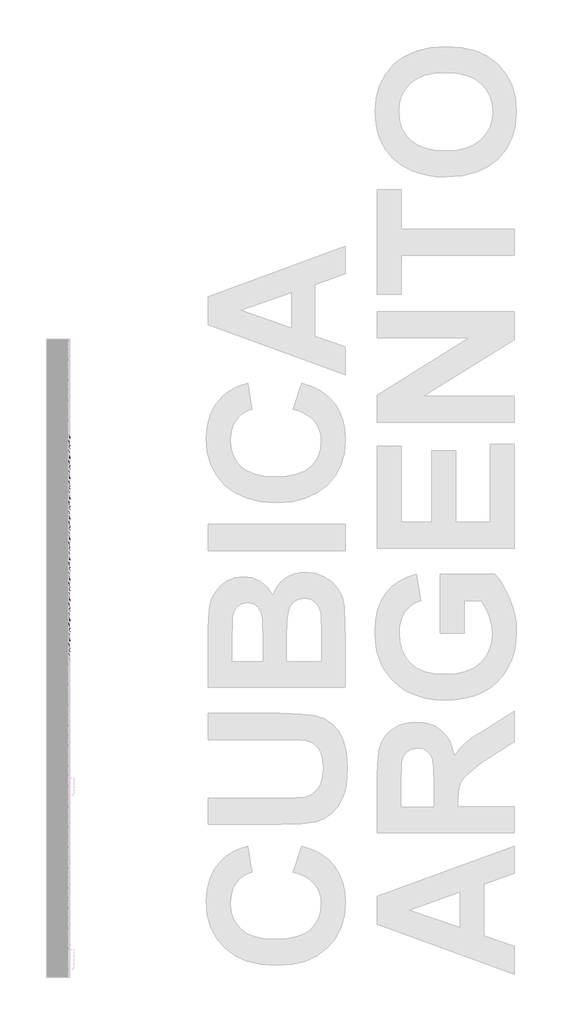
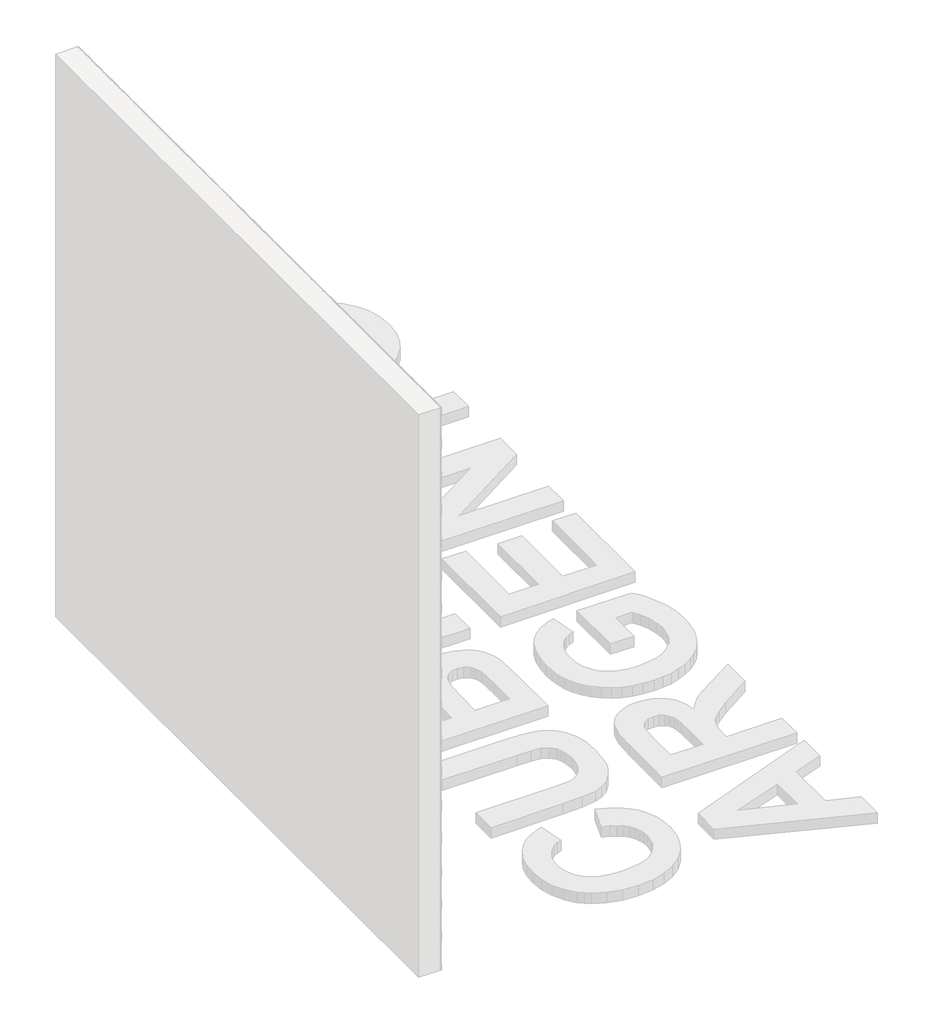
# One storey, part 16 of 121: 145 proxies.
"""IFC4 building model written with IfcOpenShell, lengths in millimetres."""

from ifc_helpers import new_model, si_unit, origin, place, context, project, spatial, transform, mapped, element, save
from components import generic_models_b2b2c5c1, generic_models_9bf73f6f, generic_models_5d175859

model = new_model("IFC4")

# Units and contexts
model_context = context("Model", 3, world=origin())
ifc_project = project(units=[si_unit("LENGTHUNIT", "METRE", prefix="MILLI")], contexts=[model_context])

# Site, building, storey
site = spatial("IfcSite", under=ifc_project)
building = spatial("IfcBuilding", under=site)
storey = spatial("IfcBuildingStorey", under=building, Name="PORTOBELLO - SHOWROOM", Elevation=0.0)

# Proxies
placement = place(None, origin())
generic_models_shape = generic_models_b2b2c5c1(model_context)
element("IfcBuildingElementProxy", 1, Name="PBSHOP - CUBICA ARGENTO 4,8X8,3 : CUBICA ARGENTO - POSIÇÃO 01", ObjectType="PBSHOP - CUBICA ARGENTO 4,8X8,3 : CUBICA ARGENTO - POSIÇÃO 01", at=placement, inside=storey, context=model_context, shape_type="MappedRepresentation", body=[
    mapped(generic_models_shape, transform((150369.5341846, -4541.2472349, 1065.5724657), x_axis=(0.0, 1.0, 0.0), y_axis=(0.0, 0.0, 1.0), z_axis=(1.0, 0.0, 0.0))),
])
element("IfcBuildingElementProxy", 2, Name="PBSHOP - CUBICA ARGENTO 4,8X8,3 : CUBICA ARGENTO - POSIÇÃO 01", ObjectType="PBSHOP - CUBICA ARGENTO 4,8X8,3 : CUBICA ARGENTO - POSIÇÃO 01", at=placement, inside=storey, context=model_context, shape_type="MappedRepresentation", body=[
    mapped(generic_models_shape, transform((150369.5341846, -4450.4079657, 1065.5724657), x_axis=(0.0, 1.0, 0.0), y_axis=(0.0, 0.0, 1.0), z_axis=(1.0, 0.0, 0.0))),
])
element("IfcBuildingElementProxy", 3, Name="PBSHOP - CUBICA ARGENTO 4,8X8,3 : CUBICA ARGENTO - POSIÇÃO 01", ObjectType="PBSHOP - CUBICA ARGENTO 4,8X8,3 : CUBICA ARGENTO - POSIÇÃO 01", at=placement, inside=storey, context=model_context, shape_type="MappedRepresentation", body=[
    mapped(generic_models_shape, transform((150369.5341846, -4359.5686964, 1065.5724657), x_axis=(0.0, 1.0, 0.0), y_axis=(0.0, 0.0, 1.0), z_axis=(1.0, 0.0, 0.0))),
])
element("IfcBuildingElementProxy", 4, Name="PBSHOP - CUBICA ARGENTO 4,8X8,3 : CUBICA ARGENTO - POSIÇÃO 01", ObjectType="PBSHOP - CUBICA ARGENTO 4,8X8,3 : CUBICA ARGENTO - POSIÇÃO 01", at=placement, inside=storey, context=model_context, shape_type="MappedRepresentation", body=[
    mapped(generic_models_shape, transform((150369.5341846, -4268.7294272, 1065.5724657), x_axis=(0.0, 1.0, 0.0), y_axis=(0.0, 0.0, 1.0), z_axis=(1.0, 0.0, 0.0))),
])
element("IfcBuildingElementProxy", 5, Name="PBSHOP - CUBICA ARGENTO 4,8X8,3 : CUBICA ARGENTO - POSIÇÃO 01", ObjectType="PBSHOP - CUBICA ARGENTO 4,8X8,3 : CUBICA ARGENTO - POSIÇÃO 01", at=placement, inside=storey, context=model_context, shape_type="MappedRepresentation", body=[
    mapped(generic_models_shape, transform((150369.5341846, -4177.890158, 1065.5724657), x_axis=(0.0, 1.0, 0.0), y_axis=(0.0, 0.0, 1.0), z_axis=(1.0, 0.0, 0.0))),
])
element("IfcBuildingElementProxy", 6, Name="PBSHOP - CUBICA ARGENTO 4,8X8,3 : CUBICA ARGENTO - POSIÇÃO 01", ObjectType="PBSHOP - CUBICA ARGENTO 4,8X8,3 : CUBICA ARGENTO - POSIÇÃO 01", at=placement, inside=storey, context=model_context, shape_type="MappedRepresentation", body=[
    mapped(generic_models_shape, transform((150369.5341846, -4087.0508887, 1065.5724657), x_axis=(0.0, 1.0, 0.0), y_axis=(0.0, 0.0, 1.0), z_axis=(1.0, 0.0, 0.0))),
])
element("IfcBuildingElementProxy", 7, Name="PBSHOP - CUBICA ARGENTO 4,8X8,3 : CUBICA ARGENTO - POSIÇÃO 01", ObjectType="PBSHOP - CUBICA ARGENTO 4,8X8,3 : CUBICA ARGENTO - POSIÇÃO 01", at=placement, inside=storey, context=model_context, shape_type="MappedRepresentation", body=[
    mapped(generic_models_shape, transform((150369.5341846, -4950.0239465, 1144.507104), x_axis=(0.0, 1.0, 0.0), y_axis=(0.0, 0.0, 1.0), z_axis=(1.0, 0.0, 0.0))),
])
element("IfcBuildingElementProxy", 8, Name="PBSHOP - CUBICA ARGENTO 4,8X8,3 : CUBICA ARGENTO - POSIÇÃO 01", ObjectType="PBSHOP - CUBICA ARGENTO 4,8X8,3 : CUBICA ARGENTO - POSIÇÃO 01", at=placement, inside=storey, context=model_context, shape_type="MappedRepresentation", body=[
    mapped(generic_models_shape, transform((150369.5341846, -4859.1846773, 1144.507104), x_axis=(0.0, 1.0, 0.0), y_axis=(0.0, 0.0, 1.0), z_axis=(1.0, 0.0, 0.0))),
])
element("IfcBuildingElementProxy", 9, Name="PBSHOP - CUBICA ARGENTO 4,8X8,3 : CUBICA ARGENTO - POSIÇÃO 01", ObjectType="PBSHOP - CUBICA ARGENTO 4,8X8,3 : CUBICA ARGENTO - POSIÇÃO 01", at=placement, inside=storey, context=model_context, shape_type="MappedRepresentation", body=[
    mapped(generic_models_shape, transform((150369.5341846, -4768.345408, 1144.507104), x_axis=(0.0, 1.0, 0.0), y_axis=(0.0, 0.0, 1.0), z_axis=(1.0, 0.0, 0.0))),
])
element("IfcBuildingElementProxy", 10, Name="PBSHOP - CUBICA ARGENTO 4,8X8,3 : CUBICA ARGENTO - POSIÇÃO 01", ObjectType="PBSHOP - CUBICA ARGENTO 4,8X8,3 : CUBICA ARGENTO - POSIÇÃO 01", at=placement, inside=storey, context=model_context, shape_type="MappedRepresentation", body=[
    mapped(generic_models_shape, transform((150369.5341846, -4677.5061388, 1144.507104), x_axis=(0.0, 1.0, 0.0), y_axis=(0.0, 0.0, 1.0), z_axis=(1.0, 0.0, 0.0))),
])
element("IfcBuildingElementProxy", 11, Name="PBSHOP - CUBICA ARGENTO 4,8X8,3 : CUBICA ARGENTO - POSIÇÃO 01", ObjectType="PBSHOP - CUBICA ARGENTO 4,8X8,3 : CUBICA ARGENTO - POSIÇÃO 01", at=placement, inside=storey, context=model_context, shape_type="MappedRepresentation", body=[
    mapped(generic_models_shape, transform((150369.5341846, -4586.6668696, 1144.507104), x_axis=(0.0, 1.0, 0.0), y_axis=(0.0, 0.0, 1.0), z_axis=(1.0, 0.0, 0.0))),
])
element("IfcBuildingElementProxy", 12, Name="PBSHOP - CUBICA ARGENTO 4,8X8,3 : CUBICA ARGENTO - POSIÇÃO 01", ObjectType="PBSHOP - CUBICA ARGENTO 4,8X8,3 : CUBICA ARGENTO - POSIÇÃO 01", at=placement, inside=storey, context=model_context, shape_type="MappedRepresentation", body=[
    mapped(generic_models_shape, transform((150369.5341846, -4495.8276003, 1144.507104), x_axis=(0.0, 1.0, 0.0), y_axis=(0.0, 0.0, 1.0), z_axis=(1.0, 0.0, 0.0))),
])
element("IfcBuildingElementProxy", 13, Name="PBSHOP - CUBICA ARGENTO 4,8X8,3 : CUBICA ARGENTO - POSIÇÃO 01", ObjectType="PBSHOP - CUBICA ARGENTO 4,8X8,3 : CUBICA ARGENTO - POSIÇÃO 01", at=placement, inside=storey, context=model_context, shape_type="MappedRepresentation", body=[
    mapped(generic_models_shape, transform((150369.5341846, -4404.9883311, 1144.507104), x_axis=(0.0, 1.0, 0.0), y_axis=(0.0, 0.0, 1.0), z_axis=(1.0, 0.0, 0.0))),
])
element("IfcBuildingElementProxy", 14, Name="PBSHOP - CUBICA ARGENTO 4,8X8,3 : CUBICA ARGENTO - POSIÇÃO 01", ObjectType="PBSHOP - CUBICA ARGENTO 4,8X8,3 : CUBICA ARGENTO - POSIÇÃO 01", at=placement, inside=storey, context=model_context, shape_type="MappedRepresentation", body=[
    mapped(generic_models_shape, transform((150369.5341846, -4314.1490618, 1144.507104), x_axis=(0.0, 1.0, 0.0), y_axis=(0.0, 0.0, 1.0), z_axis=(1.0, 0.0, 0.0))),
])
element("IfcBuildingElementProxy", 15, Name="PBSHOP - CUBICA ARGENTO 4,8X8,3 : CUBICA ARGENTO - POSIÇÃO 01", ObjectType="PBSHOP - CUBICA ARGENTO 4,8X8,3 : CUBICA ARGENTO - POSIÇÃO 01", at=placement, inside=storey, context=model_context, shape_type="MappedRepresentation", body=[
    mapped(generic_models_shape, transform((150369.5341846, -4223.3097926, 1144.507104), x_axis=(0.0, 1.0, 0.0), y_axis=(0.0, 0.0, 1.0), z_axis=(1.0, 0.0, 0.0))),
])
element("IfcBuildingElementProxy", 16, Name="PBSHOP - CUBICA ARGENTO 4,8X8,3 : CUBICA ARGENTO - POSIÇÃO 01", ObjectType="PBSHOP - CUBICA ARGENTO 4,8X8,3 : CUBICA ARGENTO - POSIÇÃO 01", at=placement, inside=storey, context=model_context, shape_type="MappedRepresentation", body=[
    mapped(generic_models_shape, transform((150369.5341846, -4132.4705233, 1144.507104), x_axis=(0.0, 1.0, 0.0), y_axis=(0.0, 0.0, 1.0), z_axis=(1.0, 0.0, 0.0))),
])
element("IfcBuildingElementProxy", 17, Name="PBSHOP - CUBICA ARGENTO 4,8X8,3 : CUBICA ARGENTO - POSIÇÃO 01", ObjectType="PBSHOP - CUBICA ARGENTO 4,8X8,3 : CUBICA ARGENTO - POSIÇÃO 01", at=placement, inside=storey, context=model_context, shape_type="MappedRepresentation", body=[
    mapped(generic_models_shape, transform((150369.5341846, -4041.6312541, 1144.507104), x_axis=(0.0, 1.0, 0.0), y_axis=(0.0, 0.0, 1.0), z_axis=(1.0, 0.0, 0.0))),
])
element("IfcBuildingElementProxy", 18, Name="PBSHOP - CUBICA ARGENTO 4,8X8,3 : CUBICA ARGENTO - POSIÇÃO 01", ObjectType="PBSHOP - CUBICA ARGENTO 4,8X8,3 : CUBICA ARGENTO - POSIÇÃO 01", at=placement, inside=storey, context=model_context, shape_type="MappedRepresentation", body=[
    mapped(generic_models_shape, transform((150369.5341846, -4995.4435811, 1223.4417424), x_axis=(0.0, 1.0, 0.0), y_axis=(0.0, 0.0, 1.0), z_axis=(1.0, 0.0, 0.0))),
])
element("IfcBuildingElementProxy", 19, Name="PBSHOP - CUBICA ARGENTO 4,8X8,3 : CUBICA ARGENTO - POSIÇÃO 01", ObjectType="PBSHOP - CUBICA ARGENTO 4,8X8,3 : CUBICA ARGENTO - POSIÇÃO 01", at=placement, inside=storey, context=model_context, shape_type="MappedRepresentation", body=[
    mapped(generic_models_shape, transform((150369.5341846, -4904.6043119, 1223.4417424), x_axis=(0.0, 1.0, 0.0), y_axis=(0.0, 0.0, 1.0), z_axis=(1.0, 0.0, 0.0))),
])
element("IfcBuildingElementProxy", 20, Name="PBSHOP - CUBICA ARGENTO 4,8X8,3 : CUBICA ARGENTO - POSIÇÃO 01", ObjectType="PBSHOP - CUBICA ARGENTO 4,8X8,3 : CUBICA ARGENTO - POSIÇÃO 01", at=placement, inside=storey, context=model_context, shape_type="MappedRepresentation", body=[
    mapped(generic_models_shape, transform((150369.5341846, -4813.7650427, 1223.4417424), x_axis=(0.0, 1.0, 0.0), y_axis=(0.0, 0.0, 1.0), z_axis=(1.0, 0.0, 0.0))),
])
element("IfcBuildingElementProxy", 21, Name="PBSHOP - CUBICA ARGENTO 4,8X8,3 : CUBICA ARGENTO - POSIÇÃO 01", ObjectType="PBSHOP - CUBICA ARGENTO 4,8X8,3 : CUBICA ARGENTO - POSIÇÃO 01", at=placement, inside=storey, context=model_context, shape_type="MappedRepresentation", body=[
    mapped(generic_models_shape, transform((150369.5341846, -4722.9257734, 1223.4417424), x_axis=(0.0, 1.0, 0.0), y_axis=(0.0, 0.0, 1.0), z_axis=(1.0, 0.0, 0.0))),
])
element("IfcBuildingElementProxy", 22, Name="PBSHOP - CUBICA ARGENTO 4,8X8,3 : CUBICA ARGENTO - POSIÇÃO 01", ObjectType="PBSHOP - CUBICA ARGENTO 4,8X8,3 : CUBICA ARGENTO - POSIÇÃO 01", at=placement, inside=storey, context=model_context, shape_type="MappedRepresentation", body=[
    mapped(generic_models_shape, transform((150369.5341846, -4632.0865042, 1223.4417424), x_axis=(0.0, 1.0, 0.0), y_axis=(0.0, 0.0, 1.0), z_axis=(1.0, 0.0, 0.0))),
])
element("IfcBuildingElementProxy", 23, Name="PBSHOP - CUBICA ARGENTO 4,8X8,3 : CUBICA ARGENTO - POSIÇÃO 01", ObjectType="PBSHOP - CUBICA ARGENTO 4,8X8,3 : CUBICA ARGENTO - POSIÇÃO 01", at=placement, inside=storey, context=model_context, shape_type="MappedRepresentation", body=[
    mapped(generic_models_shape, transform((150369.5341846, -4541.2472349, 1223.4417424), x_axis=(0.0, 1.0, 0.0), y_axis=(0.0, 0.0, 1.0), z_axis=(1.0, 0.0, 0.0))),
])
element("IfcBuildingElementProxy", 24, Name="PBSHOP - CUBICA ARGENTO 4,8X8,3 : CUBICA ARGENTO - POSIÇÃO 01", ObjectType="PBSHOP - CUBICA ARGENTO 4,8X8,3 : CUBICA ARGENTO - POSIÇÃO 01", at=placement, inside=storey, context=model_context, shape_type="MappedRepresentation", body=[
    mapped(generic_models_shape, transform((150369.5341846, -4450.4079657, 1223.4417424), x_axis=(0.0, 1.0, 0.0), y_axis=(0.0, 0.0, 1.0), z_axis=(1.0, 0.0, 0.0))),
])
element("IfcBuildingElementProxy", 25, Name="PBSHOP - CUBICA ARGENTO 4,8X8,3 : CUBICA ARGENTO - POSIÇÃO 01", ObjectType="PBSHOP - CUBICA ARGENTO 4,8X8,3 : CUBICA ARGENTO - POSIÇÃO 01", at=placement, inside=storey, context=model_context, shape_type="MappedRepresentation", body=[
    mapped(generic_models_shape, transform((150369.5341846, -4359.5686964, 1223.4417424), x_axis=(0.0, 1.0, 0.0), y_axis=(0.0, 0.0, 1.0), z_axis=(1.0, 0.0, 0.0))),
])
element("IfcBuildingElementProxy", 26, Name="PBSHOP - CUBICA ARGENTO 4,8X8,3 : CUBICA ARGENTO - POSIÇÃO 01", ObjectType="PBSHOP - CUBICA ARGENTO 4,8X8,3 : CUBICA ARGENTO - POSIÇÃO 01", at=placement, inside=storey, context=model_context, shape_type="MappedRepresentation", body=[
    mapped(generic_models_shape, transform((150369.5341846, -4268.7294272, 1223.4417424), x_axis=(0.0, 1.0, 0.0), y_axis=(0.0, 0.0, 1.0), z_axis=(1.0, 0.0, 0.0))),
])
element("IfcBuildingElementProxy", 27, Name="PBSHOP - CUBICA ARGENTO 4,8X8,3 : CUBICA ARGENTO - POSIÇÃO 01", ObjectType="PBSHOP - CUBICA ARGENTO 4,8X8,3 : CUBICA ARGENTO - POSIÇÃO 01", at=placement, inside=storey, context=model_context, shape_type="MappedRepresentation", body=[
    mapped(generic_models_shape, transform((150369.5341846, -4177.890158, 1223.4417424), x_axis=(0.0, 1.0, 0.0), y_axis=(0.0, 0.0, 1.0), z_axis=(1.0, 0.0, 0.0))),
])
element("IfcBuildingElementProxy", 28, Name="PBSHOP - CUBICA ARGENTO 4,8X8,3 : CUBICA ARGENTO - POSIÇÃO 01", ObjectType="PBSHOP - CUBICA ARGENTO 4,8X8,3 : CUBICA ARGENTO - POSIÇÃO 01", at=placement, inside=storey, context=model_context, shape_type="MappedRepresentation", body=[
    mapped(generic_models_shape, transform((150369.5341846, -4087.0508887, 1223.4417424), x_axis=(0.0, 1.0, 0.0), y_axis=(0.0, 0.0, 1.0), z_axis=(1.0, 0.0, 0.0))),
])
element("IfcBuildingElementProxy", 29, Name="PBSHOP - CUBICA ARGENTO 4,8X8,3 : CUBICA ARGENTO - POSIÇÃO 01", ObjectType="PBSHOP - CUBICA ARGENTO 4,8X8,3 : CUBICA ARGENTO - POSIÇÃO 01", at=placement, inside=storey, context=model_context, shape_type="MappedRepresentation", body=[
    mapped(generic_models_shape, transform((150369.5341846, -4950.0239465, 1302.3763808), x_axis=(0.0, 1.0, 0.0), y_axis=(0.0, 0.0, 1.0), z_axis=(1.0, 0.0, 0.0))),
])
element("IfcBuildingElementProxy", 30, Name="PBSHOP - CUBICA ARGENTO 4,8X8,3 : CUBICA ARGENTO - POSIÇÃO 01", ObjectType="PBSHOP - CUBICA ARGENTO 4,8X8,3 : CUBICA ARGENTO - POSIÇÃO 01", at=placement, inside=storey, context=model_context, shape_type="MappedRepresentation", body=[
    mapped(generic_models_shape, transform((150369.5341846, -4859.1846773, 1302.3763808), x_axis=(0.0, 1.0, 0.0), y_axis=(0.0, 0.0, 1.0), z_axis=(1.0, 0.0, 0.0))),
])
element("IfcBuildingElementProxy", 31, Name="PBSHOP - CUBICA ARGENTO 4,8X8,3 : CUBICA ARGENTO - POSIÇÃO 01", ObjectType="PBSHOP - CUBICA ARGENTO 4,8X8,3 : CUBICA ARGENTO - POSIÇÃO 01", at=placement, inside=storey, context=model_context, shape_type="MappedRepresentation", body=[
    mapped(generic_models_shape, transform((150369.5341846, -4768.345408, 1302.3763808), x_axis=(0.0, 1.0, 0.0), y_axis=(0.0, 0.0, 1.0), z_axis=(1.0, 0.0, 0.0))),
])
element("IfcBuildingElementProxy", 32, Name="PBSHOP - CUBICA ARGENTO 4,8X8,3 : CUBICA ARGENTO - POSIÇÃO 01", ObjectType="PBSHOP - CUBICA ARGENTO 4,8X8,3 : CUBICA ARGENTO - POSIÇÃO 01", at=placement, inside=storey, context=model_context, shape_type="MappedRepresentation", body=[
    mapped(generic_models_shape, transform((150369.5341846, -4677.5061388, 1302.3763808), x_axis=(0.0, 1.0, 0.0), y_axis=(0.0, 0.0, 1.0), z_axis=(1.0, 0.0, 0.0))),
])
element("IfcBuildingElementProxy", 33, Name="PBSHOP - CUBICA ARGENTO 4,8X8,3 : CUBICA ARGENTO - POSIÇÃO 01", ObjectType="PBSHOP - CUBICA ARGENTO 4,8X8,3 : CUBICA ARGENTO - POSIÇÃO 01", at=placement, inside=storey, context=model_context, shape_type="MappedRepresentation", body=[
    mapped(generic_models_shape, transform((150369.5341846, -4586.6668696, 1302.3763808), x_axis=(0.0, 1.0, 0.0), y_axis=(0.0, 0.0, 1.0), z_axis=(1.0, 0.0, 0.0))),
])
element("IfcBuildingElementProxy", 34, Name="PBSHOP - CUBICA ARGENTO 4,8X8,3 : CUBICA ARGENTO - POSIÇÃO 01", ObjectType="PBSHOP - CUBICA ARGENTO 4,8X8,3 : CUBICA ARGENTO - POSIÇÃO 01", at=placement, inside=storey, context=model_context, shape_type="MappedRepresentation", body=[
    mapped(generic_models_shape, transform((150369.5341846, -4495.8276003, 1302.3763808), x_axis=(0.0, 1.0, 0.0), y_axis=(0.0, 0.0, 1.0), z_axis=(1.0, 0.0, 0.0))),
])
element("IfcBuildingElementProxy", 35, Name="PBSHOP - CUBICA ARGENTO 4,8X8,3 : CUBICA ARGENTO - POSIÇÃO 01", ObjectType="PBSHOP - CUBICA ARGENTO 4,8X8,3 : CUBICA ARGENTO - POSIÇÃO 01", at=placement, inside=storey, context=model_context, shape_type="MappedRepresentation", body=[
    mapped(generic_models_shape, transform((150369.5341846, -4404.9883311, 1302.3763808), x_axis=(0.0, 1.0, 0.0), y_axis=(0.0, 0.0, 1.0), z_axis=(1.0, 0.0, 0.0))),
])
element("IfcBuildingElementProxy", 36, Name="PBSHOP - CUBICA ARGENTO 4,8X8,3 : CUBICA ARGENTO - POSIÇÃO 01", ObjectType="PBSHOP - CUBICA ARGENTO 4,8X8,3 : CUBICA ARGENTO - POSIÇÃO 01", at=placement, inside=storey, context=model_context, shape_type="MappedRepresentation", body=[
    mapped(generic_models_shape, transform((150369.5341846, -4314.1490618, 1302.3763808), x_axis=(0.0, 1.0, 0.0), y_axis=(0.0, 0.0, 1.0), z_axis=(1.0, 0.0, 0.0))),
])
element("IfcBuildingElementProxy", 37, Name="PBSHOP - CUBICA ARGENTO 4,8X8,3 : CUBICA ARGENTO - POSIÇÃO 01", ObjectType="PBSHOP - CUBICA ARGENTO 4,8X8,3 : CUBICA ARGENTO - POSIÇÃO 01", at=placement, inside=storey, context=model_context, shape_type="MappedRepresentation", body=[
    mapped(generic_models_shape, transform((150369.5341846, -4223.3097926, 1302.3763808), x_axis=(0.0, 1.0, 0.0), y_axis=(0.0, 0.0, 1.0), z_axis=(1.0, 0.0, 0.0))),
])
element("IfcBuildingElementProxy", 38, Name="PBSHOP - CUBICA ARGENTO 4,8X8,3 : CUBICA ARGENTO - POSIÇÃO 01", ObjectType="PBSHOP - CUBICA ARGENTO 4,8X8,3 : CUBICA ARGENTO - POSIÇÃO 01", at=placement, inside=storey, context=model_context, shape_type="MappedRepresentation", body=[
    mapped(generic_models_shape, transform((150369.5341846, -4132.4705233, 1302.3763808), x_axis=(0.0, 1.0, 0.0), y_axis=(0.0, 0.0, 1.0), z_axis=(1.0, 0.0, 0.0))),
])
element("IfcBuildingElementProxy", 39, Name="PBSHOP - CUBICA ARGENTO 4,8X8,3 : CUBICA ARGENTO - POSIÇÃO 01", ObjectType="PBSHOP - CUBICA ARGENTO 4,8X8,3 : CUBICA ARGENTO - POSIÇÃO 01", at=placement, inside=storey, context=model_context, shape_type="MappedRepresentation", body=[
    mapped(generic_models_shape, transform((150369.5341846, -4041.6312541, 1302.3763808), x_axis=(0.0, 1.0, 0.0), y_axis=(0.0, 0.0, 1.0), z_axis=(1.0, 0.0, 0.0))),
])
element("IfcBuildingElementProxy", 40, Name="PBSHOP - CUBICA ARGENTO 4,8X8,3 : CUBICA ARGENTO - POSIÇÃO 01", ObjectType="PBSHOP - CUBICA ARGENTO 4,8X8,3 : CUBICA ARGENTO - POSIÇÃO 01", at=placement, inside=storey, context=model_context, shape_type="MappedRepresentation", body=[
    mapped(generic_models_shape, transform((150369.5341846, -4995.4435811, 1381.3110192), x_axis=(0.0, 1.0, 0.0), y_axis=(0.0, 0.0, 1.0), z_axis=(1.0, 0.0, 0.0))),
])
element("IfcBuildingElementProxy", 41, Name="PBSHOP - CUBICA ARGENTO 4,8X8,3 : CUBICA ARGENTO - POSIÇÃO 01", ObjectType="PBSHOP - CUBICA ARGENTO 4,8X8,3 : CUBICA ARGENTO - POSIÇÃO 01", at=placement, inside=storey, context=model_context, shape_type="MappedRepresentation", body=[
    mapped(generic_models_shape, transform((150369.5341846, -4904.6043119, 1381.3110192), x_axis=(0.0, 1.0, 0.0), y_axis=(0.0, 0.0, 1.0), z_axis=(1.0, 0.0, 0.0))),
])
element("IfcBuildingElementProxy", 42, Name="PBSHOP - CUBICA ARGENTO 4,8X8,3 : CUBICA ARGENTO - POSIÇÃO 01", ObjectType="PBSHOP - CUBICA ARGENTO 4,8X8,3 : CUBICA ARGENTO - POSIÇÃO 01", at=placement, inside=storey, context=model_context, shape_type="MappedRepresentation", body=[
    mapped(generic_models_shape, transform((150369.5341846, -4813.7650427, 1381.3110192), x_axis=(0.0, 1.0, 0.0), y_axis=(0.0, 0.0, 1.0), z_axis=(1.0, 0.0, 0.0))),
])
element("IfcBuildingElementProxy", 43, Name="PBSHOP - CUBICA ARGENTO 4,8X8,3 : CUBICA ARGENTO - POSIÇÃO 01", ObjectType="PBSHOP - CUBICA ARGENTO 4,8X8,3 : CUBICA ARGENTO - POSIÇÃO 01", at=placement, inside=storey, context=model_context, shape_type="MappedRepresentation", body=[
    mapped(generic_models_shape, transform((150369.5341846, -4722.9257734, 1381.3110192), x_axis=(0.0, 1.0, 0.0), y_axis=(0.0, 0.0, 1.0), z_axis=(1.0, 0.0, 0.0))),
])
element("IfcBuildingElementProxy", 44, Name="PBSHOP - CUBICA ARGENTO 4,8X8,3 : CUBICA ARGENTO - POSIÇÃO 01", ObjectType="PBSHOP - CUBICA ARGENTO 4,8X8,3 : CUBICA ARGENTO - POSIÇÃO 01", at=placement, inside=storey, context=model_context, shape_type="MappedRepresentation", body=[
    mapped(generic_models_shape, transform((150369.5341846, -4632.0865042, 1381.3110192), x_axis=(0.0, 1.0, 0.0), y_axis=(0.0, 0.0, 1.0), z_axis=(1.0, 0.0, 0.0))),
])
element("IfcBuildingElementProxy", 45, Name="PBSHOP - CUBICA ARGENTO 4,8X8,3 : CUBICA ARGENTO - POSIÇÃO 01", ObjectType="PBSHOP - CUBICA ARGENTO 4,8X8,3 : CUBICA ARGENTO - POSIÇÃO 01", at=placement, inside=storey, context=model_context, shape_type="MappedRepresentation", body=[
    mapped(generic_models_shape, transform((150369.5341846, -4541.2472349, 1381.3110192), x_axis=(0.0, 1.0, 0.0), y_axis=(0.0, 0.0, 1.0), z_axis=(1.0, 0.0, 0.0))),
])
element("IfcBuildingElementProxy", 46, Name="PBSHOP - CUBICA ARGENTO 4,8X8,3 : CUBICA ARGENTO - POSIÇÃO 01", ObjectType="PBSHOP - CUBICA ARGENTO 4,8X8,3 : CUBICA ARGENTO - POSIÇÃO 01", at=placement, inside=storey, context=model_context, shape_type="MappedRepresentation", body=[
    mapped(generic_models_shape, transform((150369.5341846, -4450.4079657, 1381.3110192), x_axis=(0.0, 1.0, 0.0), y_axis=(0.0, 0.0, 1.0), z_axis=(1.0, 0.0, 0.0))),
])
element("IfcBuildingElementProxy", 47, Name="PBSHOP - CUBICA ARGENTO 4,8X8,3 : CUBICA ARGENTO - POSIÇÃO 01", ObjectType="PBSHOP - CUBICA ARGENTO 4,8X8,3 : CUBICA ARGENTO - POSIÇÃO 01", at=placement, inside=storey, context=model_context, shape_type="MappedRepresentation", body=[
    mapped(generic_models_shape, transform((150369.5341846, -4359.5686964, 1381.3110192), x_axis=(0.0, 1.0, 0.0), y_axis=(0.0, 0.0, 1.0), z_axis=(1.0, 0.0, 0.0))),
])
element("IfcBuildingElementProxy", 48, Name="PBSHOP - CUBICA ARGENTO 4,8X8,3 : CUBICA ARGENTO - POSIÇÃO 01", ObjectType="PBSHOP - CUBICA ARGENTO 4,8X8,3 : CUBICA ARGENTO - POSIÇÃO 01", at=placement, inside=storey, context=model_context, shape_type="MappedRepresentation", body=[
    mapped(generic_models_shape, transform((150369.5341846, -4268.7294272, 1381.3110192), x_axis=(0.0, 1.0, 0.0), y_axis=(0.0, 0.0, 1.0), z_axis=(1.0, 0.0, 0.0))),
])
element("IfcBuildingElementProxy", 49, Name="PBSHOP - CUBICA ARGENTO 4,8X8,3 : CUBICA ARGENTO - POSIÇÃO 01", ObjectType="PBSHOP - CUBICA ARGENTO 4,8X8,3 : CUBICA ARGENTO - POSIÇÃO 01", at=placement, inside=storey, context=model_context, shape_type="MappedRepresentation", body=[
    mapped(generic_models_shape, transform((150369.5341846, -4177.890158, 1381.3110192), x_axis=(0.0, 1.0, 0.0), y_axis=(0.0, 0.0, 1.0), z_axis=(1.0, 0.0, 0.0))),
])
element("IfcBuildingElementProxy", 50, Name="PBSHOP - CUBICA ARGENTO 4,8X8,3 : CUBICA ARGENTO - POSIÇÃO 01", ObjectType="PBSHOP - CUBICA ARGENTO 4,8X8,3 : CUBICA ARGENTO - POSIÇÃO 01", at=placement, inside=storey, context=model_context, shape_type="MappedRepresentation", body=[
    mapped(generic_models_shape, transform((150369.5341846, -4087.0508887, 1381.3110192), x_axis=(0.0, 1.0, 0.0), y_axis=(0.0, 0.0, 1.0), z_axis=(1.0, 0.0, 0.0))),
])
generic_models_2_shape = generic_models_9bf73f6f(model_context)
element("IfcBuildingElementProxy", 51, Name="PBSHOP - CUBICA ARGENTO 4,8X8,3 : CUBICA ARGENTO - POSIÇÃO 03", ObjectType="PBSHOP - CUBICA ARGENTO 4,8X8,3 : CUBICA ARGENTO - POSIÇÃO 03", at=placement, inside=storey, context=model_context, shape_type="MappedRepresentation", body=[
    mapped(generic_models_2_shape, transform((150369.5341846, -4927.3119701, 1026.0639361), x_axis=(0.0, 1.0, 0.0), y_axis=(0.0, 0.0, 1.0), z_axis=(1.0, 0.0, 0.0))),
])
element("IfcBuildingElementProxy", 52, Name="PBSHOP - CUBICA ARGENTO 4,8X8,3 : CUBICA ARGENTO - POSIÇÃO 03", ObjectType="PBSHOP - CUBICA ARGENTO 4,8X8,3 : CUBICA ARGENTO - POSIÇÃO 03", at=placement, inside=storey, context=model_context, shape_type="MappedRepresentation", body=[
    mapped(generic_models_2_shape, transform((150369.5341846, -4836.4727008, 1026.0639361), x_axis=(0.0, 1.0, 0.0), y_axis=(0.0, 0.0, 1.0), z_axis=(1.0, 0.0, 0.0))),
])
element("IfcBuildingElementProxy", 53, Name="PBSHOP - CUBICA ARGENTO 4,8X8,3 : CUBICA ARGENTO - POSIÇÃO 03", ObjectType="PBSHOP - CUBICA ARGENTO 4,8X8,3 : CUBICA ARGENTO - POSIÇÃO 03", at=placement, inside=storey, context=model_context, shape_type="MappedRepresentation", body=[
    mapped(generic_models_2_shape, transform((150369.5341846, -4745.6334316, 1026.0639361), x_axis=(0.0, 1.0, 0.0), y_axis=(0.0, 0.0, 1.0), z_axis=(1.0, 0.0, 0.0))),
])
element("IfcBuildingElementProxy", 54, Name="PBSHOP - CUBICA ARGENTO 4,8X8,3 : CUBICA ARGENTO - POSIÇÃO 03", ObjectType="PBSHOP - CUBICA ARGENTO 4,8X8,3 : CUBICA ARGENTO - POSIÇÃO 03", at=placement, inside=storey, context=model_context, shape_type="MappedRepresentation", body=[
    mapped(generic_models_2_shape, transform((150369.5341846, -4654.7941623, 1026.0639361), x_axis=(0.0, 1.0, 0.0), y_axis=(0.0, 0.0, 1.0), z_axis=(1.0, 0.0, 0.0))),
])
element("IfcBuildingElementProxy", 55, Name="PBSHOP - CUBICA ARGENTO 4,8X8,3 : CUBICA ARGENTO - POSIÇÃO 03", ObjectType="PBSHOP - CUBICA ARGENTO 4,8X8,3 : CUBICA ARGENTO - POSIÇÃO 03", at=placement, inside=storey, context=model_context, shape_type="MappedRepresentation", body=[
    mapped(generic_models_2_shape, transform((150369.5341846, -4563.9548931, 1026.0639361), x_axis=(0.0, 1.0, 0.0), y_axis=(0.0, 0.0, 1.0), z_axis=(1.0, 0.0, 0.0))),
])
element("IfcBuildingElementProxy", 56, Name="PBSHOP - CUBICA ARGENTO 4,8X8,3 : CUBICA ARGENTO - POSIÇÃO 03", ObjectType="PBSHOP - CUBICA ARGENTO 4,8X8,3 : CUBICA ARGENTO - POSIÇÃO 03", at=placement, inside=storey, context=model_context, shape_type="MappedRepresentation", body=[
    mapped(generic_models_2_shape, transform((150369.5341846, -4473.1156238, 1026.0639361), x_axis=(0.0, 1.0, 0.0), y_axis=(0.0, 0.0, 1.0), z_axis=(1.0, 0.0, 0.0))),
])
element("IfcBuildingElementProxy", 57, Name="PBSHOP - CUBICA ARGENTO 4,8X8,3 : CUBICA ARGENTO - POSIÇÃO 03", ObjectType="PBSHOP - CUBICA ARGENTO 4,8X8,3 : CUBICA ARGENTO - POSIÇÃO 03", at=placement, inside=storey, context=model_context, shape_type="MappedRepresentation", body=[
    mapped(generic_models_2_shape, transform((150369.5341846, -4382.2763546, 1026.0639361), x_axis=(0.0, 1.0, 0.0), y_axis=(0.0, 0.0, 1.0), z_axis=(1.0, 0.0, 0.0))),
])
element("IfcBuildingElementProxy", 58, Name="PBSHOP - CUBICA ARGENTO 4,8X8,3 : CUBICA ARGENTO - POSIÇÃO 03", ObjectType="PBSHOP - CUBICA ARGENTO 4,8X8,3 : CUBICA ARGENTO - POSIÇÃO 03", at=placement, inside=storey, context=model_context, shape_type="MappedRepresentation", body=[
    mapped(generic_models_2_shape, transform((150369.5341846, -4291.4370853, 1026.0639361), x_axis=(0.0, 1.0, 0.0), y_axis=(0.0, 0.0, 1.0), z_axis=(1.0, 0.0, 0.0))),
])
element("IfcBuildingElementProxy", 59, Name="PBSHOP - CUBICA ARGENTO 4,8X8,3 : CUBICA ARGENTO - POSIÇÃO 03", ObjectType="PBSHOP - CUBICA ARGENTO 4,8X8,3 : CUBICA ARGENTO - POSIÇÃO 03", at=placement, inside=storey, context=model_context, shape_type="MappedRepresentation", body=[
    mapped(generic_models_2_shape, transform((150369.5341846, -4200.5978161, 1026.0639361), x_axis=(0.0, 1.0, 0.0), y_axis=(0.0, 0.0, 1.0), z_axis=(1.0, 0.0, 0.0))),
])
element("IfcBuildingElementProxy", 60, Name="PBSHOP - CUBICA ARGENTO 4,8X8,3 : CUBICA ARGENTO - POSIÇÃO 03", ObjectType="PBSHOP - CUBICA ARGENTO 4,8X8,3 : CUBICA ARGENTO - POSIÇÃO 03", at=placement, inside=storey, context=model_context, shape_type="MappedRepresentation", body=[
    mapped(generic_models_2_shape, transform((150369.5341846, -4109.7585469, 1026.0639361), x_axis=(0.0, 1.0, 0.0), y_axis=(0.0, 0.0, 1.0), z_axis=(1.0, 0.0, 0.0))),
])
element("IfcBuildingElementProxy", 61, Name="PBSHOP - CUBICA ARGENTO 4,8X8,3 : CUBICA ARGENTO - POSIÇÃO 03", ObjectType="PBSHOP - CUBICA ARGENTO 4,8X8,3 : CUBICA ARGENTO - POSIÇÃO 03", at=placement, inside=storey, context=model_context, shape_type="MappedRepresentation", body=[
    mapped(generic_models_2_shape, transform((150369.5341846, -4018.9192776, 1026.0639361), x_axis=(0.0, 1.0, 0.0), y_axis=(0.0, 0.0, 1.0), z_axis=(1.0, 0.0, 0.0))),
])
element("IfcBuildingElementProxy", 62, Name="PBSHOP - CUBICA ARGENTO 4,8X8,3 : CUBICA ARGENTO - POSIÇÃO 03", ObjectType="PBSHOP - CUBICA ARGENTO 4,8X8,3 : CUBICA ARGENTO - POSIÇÃO 03", at=placement, inside=storey, context=model_context, shape_type="MappedRepresentation", body=[
    mapped(generic_models_2_shape, transform((150369.5341846, -4972.7316047, 1104.9985744), x_axis=(0.0, 1.0, 0.0), y_axis=(0.0, 0.0, 1.0), z_axis=(1.0, 0.0, 0.0))),
])
element("IfcBuildingElementProxy", 63, Name="PBSHOP - CUBICA ARGENTO 4,8X8,3 : CUBICA ARGENTO - POSIÇÃO 03", ObjectType="PBSHOP - CUBICA ARGENTO 4,8X8,3 : CUBICA ARGENTO - POSIÇÃO 03", at=placement, inside=storey, context=model_context, shape_type="MappedRepresentation", body=[
    mapped(generic_models_2_shape, transform((150369.5341846, -4881.8923354, 1104.9985744), x_axis=(0.0, 1.0, 0.0), y_axis=(0.0, 0.0, 1.0), z_axis=(1.0, 0.0, 0.0))),
])
element("IfcBuildingElementProxy", 64, Name="PBSHOP - CUBICA ARGENTO 4,8X8,3 : CUBICA ARGENTO - POSIÇÃO 03", ObjectType="PBSHOP - CUBICA ARGENTO 4,8X8,3 : CUBICA ARGENTO - POSIÇÃO 03", at=placement, inside=storey, context=model_context, shape_type="MappedRepresentation", body=[
    mapped(generic_models_2_shape, transform((150369.5341846, -4791.0530662, 1104.9985744), x_axis=(0.0, 1.0, 0.0), y_axis=(0.0, 0.0, 1.0), z_axis=(1.0, 0.0, 0.0))),
])
element("IfcBuildingElementProxy", 65, Name="PBSHOP - CUBICA ARGENTO 4,8X8,3 : CUBICA ARGENTO - POSIÇÃO 03", ObjectType="PBSHOP - CUBICA ARGENTO 4,8X8,3 : CUBICA ARGENTO - POSIÇÃO 03", at=placement, inside=storey, context=model_context, shape_type="MappedRepresentation", body=[
    mapped(generic_models_2_shape, transform((150369.5341846, -4700.2137969, 1104.9985744), x_axis=(0.0, 1.0, 0.0), y_axis=(0.0, 0.0, 1.0), z_axis=(1.0, 0.0, 0.0))),
])
element("IfcBuildingElementProxy", 66, Name="PBSHOP - CUBICA ARGENTO 4,8X8,3 : CUBICA ARGENTO - POSIÇÃO 03", ObjectType="PBSHOP - CUBICA ARGENTO 4,8X8,3 : CUBICA ARGENTO - POSIÇÃO 03", at=placement, inside=storey, context=model_context, shape_type="MappedRepresentation", body=[
    mapped(generic_models_2_shape, transform((150369.5341846, -4609.3745277, 1104.9985744), x_axis=(0.0, 1.0, 0.0), y_axis=(0.0, 0.0, 1.0), z_axis=(1.0, 0.0, 0.0))),
])
element("IfcBuildingElementProxy", 67, Name="PBSHOP - CUBICA ARGENTO 4,8X8,3 : CUBICA ARGENTO - POSIÇÃO 03", ObjectType="PBSHOP - CUBICA ARGENTO 4,8X8,3 : CUBICA ARGENTO - POSIÇÃO 03", at=placement, inside=storey, context=model_context, shape_type="MappedRepresentation", body=[
    mapped(generic_models_2_shape, transform((150369.5341846, -4518.5352585, 1104.9985744), x_axis=(0.0, 1.0, 0.0), y_axis=(0.0, 0.0, 1.0), z_axis=(1.0, 0.0, 0.0))),
])
element("IfcBuildingElementProxy", 68, Name="PBSHOP - CUBICA ARGENTO 4,8X8,3 : CUBICA ARGENTO - POSIÇÃO 03", ObjectType="PBSHOP - CUBICA ARGENTO 4,8X8,3 : CUBICA ARGENTO - POSIÇÃO 03", at=placement, inside=storey, context=model_context, shape_type="MappedRepresentation", body=[
    mapped(generic_models_2_shape, transform((150369.5341846, -4427.6959892, 1104.9985744), x_axis=(0.0, 1.0, 0.0), y_axis=(0.0, 0.0, 1.0), z_axis=(1.0, 0.0, 0.0))),
])
element("IfcBuildingElementProxy", 69, Name="PBSHOP - CUBICA ARGENTO 4,8X8,3 : CUBICA ARGENTO - POSIÇÃO 03", ObjectType="PBSHOP - CUBICA ARGENTO 4,8X8,3 : CUBICA ARGENTO - POSIÇÃO 03", at=placement, inside=storey, context=model_context, shape_type="MappedRepresentation", body=[
    mapped(generic_models_2_shape, transform((150369.5341846, -4336.85672, 1104.9985744), x_axis=(0.0, 1.0, 0.0), y_axis=(0.0, 0.0, 1.0), z_axis=(1.0, 0.0, 0.0))),
])
element("IfcBuildingElementProxy", 70, Name="PBSHOP - CUBICA ARGENTO 4,8X8,3 : CUBICA ARGENTO - POSIÇÃO 03", ObjectType="PBSHOP - CUBICA ARGENTO 4,8X8,3 : CUBICA ARGENTO - POSIÇÃO 03", at=placement, inside=storey, context=model_context, shape_type="MappedRepresentation", body=[
    mapped(generic_models_2_shape, transform((150369.5341846, -4246.0174507, 1104.9985744), x_axis=(0.0, 1.0, 0.0), y_axis=(0.0, 0.0, 1.0), z_axis=(1.0, 0.0, 0.0))),
])
element("IfcBuildingElementProxy", 71, Name="PBSHOP - CUBICA ARGENTO 4,8X8,3 : CUBICA ARGENTO - POSIÇÃO 03", ObjectType="PBSHOP - CUBICA ARGENTO 4,8X8,3 : CUBICA ARGENTO - POSIÇÃO 03", at=placement, inside=storey, context=model_context, shape_type="MappedRepresentation", body=[
    mapped(generic_models_2_shape, transform((150369.5341846, -4155.1781815, 1104.9985744), x_axis=(0.0, 1.0, 0.0), y_axis=(0.0, 0.0, 1.0), z_axis=(1.0, 0.0, 0.0))),
])
element("IfcBuildingElementProxy", 72, Name="PBSHOP - CUBICA ARGENTO 4,8X8,3 : CUBICA ARGENTO - POSIÇÃO 03", ObjectType="PBSHOP - CUBICA ARGENTO 4,8X8,3 : CUBICA ARGENTO - POSIÇÃO 03", at=placement, inside=storey, context=model_context, shape_type="MappedRepresentation", body=[
    mapped(generic_models_2_shape, transform((150369.5341846, -4064.3389122, 1104.9985744), x_axis=(0.0, 1.0, 0.0), y_axis=(0.0, 0.0, 1.0), z_axis=(1.0, 0.0, 0.0))),
])
element("IfcBuildingElementProxy", 73, Name="PBSHOP - CUBICA ARGENTO 4,8X8,3 : CUBICA ARGENTO - POSIÇÃO 03", ObjectType="PBSHOP - CUBICA ARGENTO 4,8X8,3 : CUBICA ARGENTO - POSIÇÃO 03", at=placement, inside=storey, context=model_context, shape_type="MappedRepresentation", body=[
    mapped(generic_models_2_shape, transform((150369.5341846, -4927.3119701, 1183.9332128), x_axis=(0.0, 1.0, 0.0), y_axis=(0.0, 0.0, 1.0), z_axis=(1.0, 0.0, 0.0))),
])
element("IfcBuildingElementProxy", 74, Name="PBSHOP - CUBICA ARGENTO 4,8X8,3 : CUBICA ARGENTO - POSIÇÃO 03", ObjectType="PBSHOP - CUBICA ARGENTO 4,8X8,3 : CUBICA ARGENTO - POSIÇÃO 03", at=placement, inside=storey, context=model_context, shape_type="MappedRepresentation", body=[
    mapped(generic_models_2_shape, transform((150369.5341846, -4836.4727008, 1183.9332128), x_axis=(0.0, 1.0, 0.0), y_axis=(0.0, 0.0, 1.0), z_axis=(1.0, 0.0, 0.0))),
])
element("IfcBuildingElementProxy", 75, Name="PBSHOP - CUBICA ARGENTO 4,8X8,3 : CUBICA ARGENTO - POSIÇÃO 03", ObjectType="PBSHOP - CUBICA ARGENTO 4,8X8,3 : CUBICA ARGENTO - POSIÇÃO 03", at=placement, inside=storey, context=model_context, shape_type="MappedRepresentation", body=[
    mapped(generic_models_2_shape, transform((150369.5341846, -4745.6334316, 1183.9332128), x_axis=(0.0, 1.0, 0.0), y_axis=(0.0, 0.0, 1.0), z_axis=(1.0, 0.0, 0.0))),
])
element("IfcBuildingElementProxy", 76, Name="PBSHOP - CUBICA ARGENTO 4,8X8,3 : CUBICA ARGENTO - POSIÇÃO 03", ObjectType="PBSHOP - CUBICA ARGENTO 4,8X8,3 : CUBICA ARGENTO - POSIÇÃO 03", at=placement, inside=storey, context=model_context, shape_type="MappedRepresentation", body=[
    mapped(generic_models_2_shape, transform((150369.5341846, -4654.7941623, 1183.9332128), x_axis=(0.0, 1.0, 0.0), y_axis=(0.0, 0.0, 1.0), z_axis=(1.0, 0.0, 0.0))),
])
element("IfcBuildingElementProxy", 77, Name="PBSHOP - CUBICA ARGENTO 4,8X8,3 : CUBICA ARGENTO - POSIÇÃO 03", ObjectType="PBSHOP - CUBICA ARGENTO 4,8X8,3 : CUBICA ARGENTO - POSIÇÃO 03", at=placement, inside=storey, context=model_context, shape_type="MappedRepresentation", body=[
    mapped(generic_models_2_shape, transform((150369.5341846, -4563.9548931, 1183.9332128), x_axis=(0.0, 1.0, 0.0), y_axis=(0.0, 0.0, 1.0), z_axis=(1.0, 0.0, 0.0))),
])
element("IfcBuildingElementProxy", 78, Name="PBSHOP - CUBICA ARGENTO 4,8X8,3 : CUBICA ARGENTO - POSIÇÃO 03", ObjectType="PBSHOP - CUBICA ARGENTO 4,8X8,3 : CUBICA ARGENTO - POSIÇÃO 03", at=placement, inside=storey, context=model_context, shape_type="MappedRepresentation", body=[
    mapped(generic_models_2_shape, transform((150369.5341846, -4473.1156238, 1183.9332128), x_axis=(0.0, 1.0, 0.0), y_axis=(0.0, 0.0, 1.0), z_axis=(1.0, 0.0, 0.0))),
])
element("IfcBuildingElementProxy", 79, Name="PBSHOP - CUBICA ARGENTO 4,8X8,3 : CUBICA ARGENTO - POSIÇÃO 03", ObjectType="PBSHOP - CUBICA ARGENTO 4,8X8,3 : CUBICA ARGENTO - POSIÇÃO 03", at=placement, inside=storey, context=model_context, shape_type="MappedRepresentation", body=[
    mapped(generic_models_2_shape, transform((150369.5341846, -4382.2763546, 1183.9332128), x_axis=(0.0, 1.0, 0.0), y_axis=(0.0, 0.0, 1.0), z_axis=(1.0, 0.0, 0.0))),
])
element("IfcBuildingElementProxy", 80, Name="PBSHOP - CUBICA ARGENTO 4,8X8,3 : CUBICA ARGENTO - POSIÇÃO 03", ObjectType="PBSHOP - CUBICA ARGENTO 4,8X8,3 : CUBICA ARGENTO - POSIÇÃO 03", at=placement, inside=storey, context=model_context, shape_type="MappedRepresentation", body=[
    mapped(generic_models_2_shape, transform((150369.5341846, -4291.4370853, 1183.9332128), x_axis=(0.0, 1.0, 0.0), y_axis=(0.0, 0.0, 1.0), z_axis=(1.0, 0.0, 0.0))),
])
element("IfcBuildingElementProxy", 81, Name="PBSHOP - CUBICA ARGENTO 4,8X8,3 : CUBICA ARGENTO - POSIÇÃO 03", ObjectType="PBSHOP - CUBICA ARGENTO 4,8X8,3 : CUBICA ARGENTO - POSIÇÃO 03", at=placement, inside=storey, context=model_context, shape_type="MappedRepresentation", body=[
    mapped(generic_models_2_shape, transform((150369.5341846, -4200.5978161, 1183.9332128), x_axis=(0.0, 1.0, 0.0), y_axis=(0.0, 0.0, 1.0), z_axis=(1.0, 0.0, 0.0))),
])
element("IfcBuildingElementProxy", 82, Name="PBSHOP - CUBICA ARGENTO 4,8X8,3 : CUBICA ARGENTO - POSIÇÃO 03", ObjectType="PBSHOP - CUBICA ARGENTO 4,8X8,3 : CUBICA ARGENTO - POSIÇÃO 03", at=placement, inside=storey, context=model_context, shape_type="MappedRepresentation", body=[
    mapped(generic_models_2_shape, transform((150369.5341846, -4109.7585469, 1183.9332128), x_axis=(0.0, 1.0, 0.0), y_axis=(0.0, 0.0, 1.0), z_axis=(1.0, 0.0, 0.0))),
])
element("IfcBuildingElementProxy", 83, Name="PBSHOP - CUBICA ARGENTO 4,8X8,3 : CUBICA ARGENTO - POSIÇÃO 03", ObjectType="PBSHOP - CUBICA ARGENTO 4,8X8,3 : CUBICA ARGENTO - POSIÇÃO 03", at=placement, inside=storey, context=model_context, shape_type="MappedRepresentation", body=[
    mapped(generic_models_2_shape, transform((150369.5341846, -4018.9192776, 1183.9332128), x_axis=(0.0, 1.0, 0.0), y_axis=(0.0, 0.0, 1.0), z_axis=(1.0, 0.0, 0.0))),
])
element("IfcBuildingElementProxy", 84, Name="PBSHOP - CUBICA ARGENTO 4,8X8,3 : CUBICA ARGENTO - POSIÇÃO 03", ObjectType="PBSHOP - CUBICA ARGENTO 4,8X8,3 : CUBICA ARGENTO - POSIÇÃO 03", at=placement, inside=storey, context=model_context, shape_type="MappedRepresentation", body=[
    mapped(generic_models_2_shape, transform((150369.5341846, -4972.7316047, 1262.8678512), x_axis=(0.0, 1.0, 0.0), y_axis=(0.0, 0.0, 1.0), z_axis=(1.0, 0.0, 0.0))),
])
element("IfcBuildingElementProxy", 85, Name="PBSHOP - CUBICA ARGENTO 4,8X8,3 : CUBICA ARGENTO - POSIÇÃO 03", ObjectType="PBSHOP - CUBICA ARGENTO 4,8X8,3 : CUBICA ARGENTO - POSIÇÃO 03", at=placement, inside=storey, context=model_context, shape_type="MappedRepresentation", body=[
    mapped(generic_models_2_shape, transform((150369.5341846, -4881.8923354, 1262.8678512), x_axis=(0.0, 1.0, 0.0), y_axis=(0.0, 0.0, 1.0), z_axis=(1.0, 0.0, 0.0))),
])
element("IfcBuildingElementProxy", 86, Name="PBSHOP - CUBICA ARGENTO 4,8X8,3 : CUBICA ARGENTO - POSIÇÃO 03", ObjectType="PBSHOP - CUBICA ARGENTO 4,8X8,3 : CUBICA ARGENTO - POSIÇÃO 03", at=placement, inside=storey, context=model_context, shape_type="MappedRepresentation", body=[
    mapped(generic_models_2_shape, transform((150369.5341846, -4791.0530662, 1262.8678512), x_axis=(0.0, 1.0, 0.0), y_axis=(0.0, 0.0, 1.0), z_axis=(1.0, 0.0, 0.0))),
])
element("IfcBuildingElementProxy", 87, Name="PBSHOP - CUBICA ARGENTO 4,8X8,3 : CUBICA ARGENTO - POSIÇÃO 03", ObjectType="PBSHOP - CUBICA ARGENTO 4,8X8,3 : CUBICA ARGENTO - POSIÇÃO 03", at=placement, inside=storey, context=model_context, shape_type="MappedRepresentation", body=[
    mapped(generic_models_2_shape, transform((150369.5341846, -4700.2137969, 1262.8678512), x_axis=(0.0, 1.0, 0.0), y_axis=(0.0, 0.0, 1.0), z_axis=(1.0, 0.0, 0.0))),
])
element("IfcBuildingElementProxy", 88, Name="PBSHOP - CUBICA ARGENTO 4,8X8,3 : CUBICA ARGENTO - POSIÇÃO 03", ObjectType="PBSHOP - CUBICA ARGENTO 4,8X8,3 : CUBICA ARGENTO - POSIÇÃO 03", at=placement, inside=storey, context=model_context, shape_type="MappedRepresentation", body=[
    mapped(generic_models_2_shape, transform((150369.5341846, -4609.3745277, 1262.8678512), x_axis=(0.0, 1.0, 0.0), y_axis=(0.0, 0.0, 1.0), z_axis=(1.0, 0.0, 0.0))),
])
element("IfcBuildingElementProxy", 89, Name="PBSHOP - CUBICA ARGENTO 4,8X8,3 : CUBICA ARGENTO - POSIÇÃO 03", ObjectType="PBSHOP - CUBICA ARGENTO 4,8X8,3 : CUBICA ARGENTO - POSIÇÃO 03", at=placement, inside=storey, context=model_context, shape_type="MappedRepresentation", body=[
    mapped(generic_models_2_shape, transform((150369.5341846, -4518.5352585, 1262.8678512), x_axis=(0.0, 1.0, 0.0), y_axis=(0.0, 0.0, 1.0), z_axis=(1.0, 0.0, 0.0))),
])
element("IfcBuildingElementProxy", 90, Name="PBSHOP - CUBICA ARGENTO 4,8X8,3 : CUBICA ARGENTO - POSIÇÃO 03", ObjectType="PBSHOP - CUBICA ARGENTO 4,8X8,3 : CUBICA ARGENTO - POSIÇÃO 03", at=placement, inside=storey, context=model_context, shape_type="MappedRepresentation", body=[
    mapped(generic_models_2_shape, transform((150369.5341846, -4427.6959892, 1262.8678512), x_axis=(0.0, 1.0, 0.0), y_axis=(0.0, 0.0, 1.0), z_axis=(1.0, 0.0, 0.0))),
])
element("IfcBuildingElementProxy", 91, Name="PBSHOP - CUBICA ARGENTO 4,8X8,3 : CUBICA ARGENTO - POSIÇÃO 03", ObjectType="PBSHOP - CUBICA ARGENTO 4,8X8,3 : CUBICA ARGENTO - POSIÇÃO 03", at=placement, inside=storey, context=model_context, shape_type="MappedRepresentation", body=[
    mapped(generic_models_2_shape, transform((150369.5341846, -4336.85672, 1262.8678512), x_axis=(0.0, 1.0, 0.0), y_axis=(0.0, 0.0, 1.0), z_axis=(1.0, 0.0, 0.0))),
])
element("IfcBuildingElementProxy", 92, Name="PBSHOP - CUBICA ARGENTO 4,8X8,3 : CUBICA ARGENTO - POSIÇÃO 03", ObjectType="PBSHOP - CUBICA ARGENTO 4,8X8,3 : CUBICA ARGENTO - POSIÇÃO 03", at=placement, inside=storey, context=model_context, shape_type="MappedRepresentation", body=[
    mapped(generic_models_2_shape, transform((150369.5341846, -4246.0174507, 1262.8678512), x_axis=(0.0, 1.0, 0.0), y_axis=(0.0, 0.0, 1.0), z_axis=(1.0, 0.0, 0.0))),
])
element("IfcBuildingElementProxy", 93, Name="PBSHOP - CUBICA ARGENTO 4,8X8,3 : CUBICA ARGENTO - POSIÇÃO 03", ObjectType="PBSHOP - CUBICA ARGENTO 4,8X8,3 : CUBICA ARGENTO - POSIÇÃO 03", at=placement, inside=storey, context=model_context, shape_type="MappedRepresentation", body=[
    mapped(generic_models_2_shape, transform((150369.5341846, -4155.1781815, 1262.8678512), x_axis=(0.0, 1.0, 0.0), y_axis=(0.0, 0.0, 1.0), z_axis=(1.0, 0.0, 0.0))),
])
element("IfcBuildingElementProxy", 94, Name="PBSHOP - CUBICA ARGENTO 4,8X8,3 : CUBICA ARGENTO - POSIÇÃO 03", ObjectType="PBSHOP - CUBICA ARGENTO 4,8X8,3 : CUBICA ARGENTO - POSIÇÃO 03", at=placement, inside=storey, context=model_context, shape_type="MappedRepresentation", body=[
    mapped(generic_models_2_shape, transform((150369.5341846, -4064.3389122, 1262.8678512), x_axis=(0.0, 1.0, 0.0), y_axis=(0.0, 0.0, 1.0), z_axis=(1.0, 0.0, 0.0))),
])
element("IfcBuildingElementProxy", 95, Name="PBSHOP - CUBICA ARGENTO 4,8X8,3 : CUBICA ARGENTO - POSIÇÃO 03", ObjectType="PBSHOP - CUBICA ARGENTO 4,8X8,3 : CUBICA ARGENTO - POSIÇÃO 03", at=placement, inside=storey, context=model_context, shape_type="MappedRepresentation", body=[
    mapped(generic_models_2_shape, transform((150369.5341846, -4927.3119701, 1341.8024896), x_axis=(0.0, 1.0, 0.0), y_axis=(0.0, 0.0, 1.0), z_axis=(1.0, 0.0, 0.0))),
])
generic_models_3_shape = generic_models_5d175859(model_context)
element("IfcBuildingElementProxy", 96, Name="PBSHOP - CUBICA ARGENTO 4,8X8,3 : CUBICA ARGENTO - POSIÇÃO 01", ObjectType="PBSHOP - CUBICA ARGENTO 4,8X8,3 : CUBICA ARGENTO - POSIÇÃO 01", at=placement, inside=storey, context=model_context, shape_type="MappedRepresentation", body=[
    mapped(generic_models_3_shape, transform((150369.5341846, -4495.823282, 1065.5724657), x_axis=(0.0, -1.0, 0.0), y_axis=(0.0, 0.0, -1.0), z_axis=(1.0, 0.0, 0.0))),
])
element("IfcBuildingElementProxy", 97, Name="PBSHOP - CUBICA ARGENTO 4,8X8,3 : CUBICA ARGENTO - POSIÇÃO 01", ObjectType="PBSHOP - CUBICA ARGENTO 4,8X8,3 : CUBICA ARGENTO - POSIÇÃO 01", at=placement, inside=storey, context=model_context, shape_type="MappedRepresentation", body=[
    mapped(generic_models_3_shape, transform((150369.5341846, -4404.9840127, 1065.5724657), x_axis=(0.0, -1.0, 0.0), y_axis=(0.0, 0.0, -1.0), z_axis=(1.0, 0.0, 0.0))),
])
element("IfcBuildingElementProxy", 98, Name="PBSHOP - CUBICA ARGENTO 4,8X8,3 : CUBICA ARGENTO - POSIÇÃO 01", ObjectType="PBSHOP - CUBICA ARGENTO 4,8X8,3 : CUBICA ARGENTO - POSIÇÃO 01", at=placement, inside=storey, context=model_context, shape_type="MappedRepresentation", body=[
    mapped(generic_models_3_shape, transform((150369.5341846, -4314.1447435, 1065.5724657), x_axis=(0.0, -1.0, 0.0), y_axis=(0.0, 0.0, -1.0), z_axis=(1.0, 0.0, 0.0))),
])
element("IfcBuildingElementProxy", 99, Name="PBSHOP - CUBICA ARGENTO 4,8X8,3 : CUBICA ARGENTO - POSIÇÃO 01", ObjectType="PBSHOP - CUBICA ARGENTO 4,8X8,3 : CUBICA ARGENTO - POSIÇÃO 01", at=placement, inside=storey, context=model_context, shape_type="MappedRepresentation", body=[
    mapped(generic_models_3_shape, transform((150369.5341846, -4223.3054742, 1065.5724657), x_axis=(0.0, -1.0, 0.0), y_axis=(0.0, 0.0, -1.0), z_axis=(1.0, 0.0, 0.0))),
])
element("IfcBuildingElementProxy", 100, Name="PBSHOP - CUBICA ARGENTO 4,8X8,3 : CUBICA ARGENTO - POSIÇÃO 01", ObjectType="PBSHOP - CUBICA ARGENTO 4,8X8,3 : CUBICA ARGENTO - POSIÇÃO 01", at=placement, inside=storey, context=model_context, shape_type="MappedRepresentation", body=[
    mapped(generic_models_3_shape, transform((150369.5341846, -4132.466205, 1065.5724657), x_axis=(0.0, -1.0, 0.0), y_axis=(0.0, 0.0, -1.0), z_axis=(1.0, 0.0, 0.0))),
])
element("IfcBuildingElementProxy", 101, Name="PBSHOP - CUBICA ARGENTO 4,8X8,3 : CUBICA ARGENTO - POSIÇÃO 01", ObjectType="PBSHOP - CUBICA ARGENTO 4,8X8,3 : CUBICA ARGENTO - POSIÇÃO 01", at=placement, inside=storey, context=model_context, shape_type="MappedRepresentation", body=[
    mapped(generic_models_3_shape, transform((150369.5341846, -4041.6269358, 1065.5724657), x_axis=(0.0, -1.0, 0.0), y_axis=(0.0, 0.0, -1.0), z_axis=(1.0, 0.0, 0.0))),
])
element("IfcBuildingElementProxy", 102, Name="PBSHOP - CUBICA ARGENTO 4,8X8,3 : CUBICA ARGENTO - POSIÇÃO 01", ObjectType="PBSHOP - CUBICA ARGENTO 4,8X8,3 : CUBICA ARGENTO - POSIÇÃO 01", at=placement, inside=storey, context=model_context, shape_type="MappedRepresentation", body=[
    mapped(generic_models_3_shape, transform((150369.5341846, -4995.4392628, 1144.507104), x_axis=(0.0, -1.0, 0.0), y_axis=(0.0, 0.0, -1.0), z_axis=(1.0, 0.0, 0.0))),
])
element("IfcBuildingElementProxy", 103, Name="PBSHOP - CUBICA ARGENTO 4,8X8,3 : CUBICA ARGENTO - POSIÇÃO 01", ObjectType="PBSHOP - CUBICA ARGENTO 4,8X8,3 : CUBICA ARGENTO - POSIÇÃO 01", at=placement, inside=storey, context=model_context, shape_type="MappedRepresentation", body=[
    mapped(generic_models_3_shape, transform((150369.5341846, -4904.5999936, 1144.507104), x_axis=(0.0, -1.0, 0.0), y_axis=(0.0, 0.0, -1.0), z_axis=(1.0, 0.0, 0.0))),
])
element("IfcBuildingElementProxy", 104, Name="PBSHOP - CUBICA ARGENTO 4,8X8,3 : CUBICA ARGENTO - POSIÇÃO 01", ObjectType="PBSHOP - CUBICA ARGENTO 4,8X8,3 : CUBICA ARGENTO - POSIÇÃO 01", at=placement, inside=storey, context=model_context, shape_type="MappedRepresentation", body=[
    mapped(generic_models_3_shape, transform((150369.5341846, -4813.7607243, 1144.507104), x_axis=(0.0, -1.0, 0.0), y_axis=(0.0, 0.0, -1.0), z_axis=(1.0, 0.0, 0.0))),
])
element("IfcBuildingElementProxy", 105, Name="PBSHOP - CUBICA ARGENTO 4,8X8,3 : CUBICA ARGENTO - POSIÇÃO 01", ObjectType="PBSHOP - CUBICA ARGENTO 4,8X8,3 : CUBICA ARGENTO - POSIÇÃO 01", at=placement, inside=storey, context=model_context, shape_type="MappedRepresentation", body=[
    mapped(generic_models_3_shape, transform((150369.5341846, -4722.9214551, 1144.507104), x_axis=(0.0, -1.0, 0.0), y_axis=(0.0, 0.0, -1.0), z_axis=(1.0, 0.0, 0.0))),
])
element("IfcBuildingElementProxy", 106, Name="PBSHOP - CUBICA ARGENTO 4,8X8,3 : CUBICA ARGENTO - POSIÇÃO 01", ObjectType="PBSHOP - CUBICA ARGENTO 4,8X8,3 : CUBICA ARGENTO - POSIÇÃO 01", at=placement, inside=storey, context=model_context, shape_type="MappedRepresentation", body=[
    mapped(generic_models_3_shape, transform((150369.5341846, -4632.0821858, 1144.507104), x_axis=(0.0, -1.0, 0.0), y_axis=(0.0, 0.0, -1.0), z_axis=(1.0, 0.0, 0.0))),
])
element("IfcBuildingElementProxy", 107, Name="PBSHOP - CUBICA ARGENTO 4,8X8,3 : CUBICA ARGENTO - POSIÇÃO 01", ObjectType="PBSHOP - CUBICA ARGENTO 4,8X8,3 : CUBICA ARGENTO - POSIÇÃO 01", at=placement, inside=storey, context=model_context, shape_type="MappedRepresentation", body=[
    mapped(generic_models_3_shape, transform((150369.5341846, -4541.2429166, 1144.507104), x_axis=(0.0, -1.0, 0.0), y_axis=(0.0, 0.0, -1.0), z_axis=(1.0, 0.0, 0.0))),
])
element("IfcBuildingElementProxy", 108, Name="PBSHOP - CUBICA ARGENTO 4,8X8,3 : CUBICA ARGENTO - POSIÇÃO 01", ObjectType="PBSHOP - CUBICA ARGENTO 4,8X8,3 : CUBICA ARGENTO - POSIÇÃO 01", at=placement, inside=storey, context=model_context, shape_type="MappedRepresentation", body=[
    mapped(generic_models_3_shape, transform((150369.5341846, -4450.4036474, 1144.507104), x_axis=(0.0, -1.0, 0.0), y_axis=(0.0, 0.0, -1.0), z_axis=(1.0, 0.0, 0.0))),
])
element("IfcBuildingElementProxy", 109, Name="PBSHOP - CUBICA ARGENTO 4,8X8,3 : CUBICA ARGENTO - POSIÇÃO 01", ObjectType="PBSHOP - CUBICA ARGENTO 4,8X8,3 : CUBICA ARGENTO - POSIÇÃO 01", at=placement, inside=storey, context=model_context, shape_type="MappedRepresentation", body=[
    mapped(generic_models_3_shape, transform((150369.5341846, -4359.5643781, 1144.507104), x_axis=(0.0, -1.0, 0.0), y_axis=(0.0, 0.0, -1.0), z_axis=(1.0, 0.0, 0.0))),
])
element("IfcBuildingElementProxy", 110, Name="PBSHOP - CUBICA ARGENTO 4,8X8,3 : CUBICA ARGENTO - POSIÇÃO 01", ObjectType="PBSHOP - CUBICA ARGENTO 4,8X8,3 : CUBICA ARGENTO - POSIÇÃO 01", at=placement, inside=storey, context=model_context, shape_type="MappedRepresentation", body=[
    mapped(generic_models_3_shape, transform((150369.5341846, -4268.7251089, 1144.507104), x_axis=(0.0, -1.0, 0.0), y_axis=(0.0, 0.0, -1.0), z_axis=(1.0, 0.0, 0.0))),
])
element("IfcBuildingElementProxy", 111, Name="PBSHOP - CUBICA ARGENTO 4,8X8,3 : CUBICA ARGENTO - POSIÇÃO 01", ObjectType="PBSHOP - CUBICA ARGENTO 4,8X8,3 : CUBICA ARGENTO - POSIÇÃO 01", at=placement, inside=storey, context=model_context, shape_type="MappedRepresentation", body=[
    mapped(generic_models_3_shape, transform((150369.5341846, -4177.8858396, 1144.507104), x_axis=(0.0, -1.0, 0.0), y_axis=(0.0, 0.0, -1.0), z_axis=(1.0, 0.0, 0.0))),
])
element("IfcBuildingElementProxy", 112, Name="PBSHOP - CUBICA ARGENTO 4,8X8,3 : CUBICA ARGENTO - POSIÇÃO 01", ObjectType="PBSHOP - CUBICA ARGENTO 4,8X8,3 : CUBICA ARGENTO - POSIÇÃO 01", at=placement, inside=storey, context=model_context, shape_type="MappedRepresentation", body=[
    mapped(generic_models_3_shape, transform((150369.5341846, -4087.0465704, 1144.507104), x_axis=(0.0, -1.0, 0.0), y_axis=(0.0, 0.0, -1.0), z_axis=(1.0, 0.0, 0.0))),
])
element("IfcBuildingElementProxy", 113, Name="PBSHOP - CUBICA ARGENTO 4,8X8,3 : CUBICA ARGENTO - POSIÇÃO 01", ObjectType="PBSHOP - CUBICA ARGENTO 4,8X8,3 : CUBICA ARGENTO - POSIÇÃO 01", at=placement, inside=storey, context=model_context, shape_type="MappedRepresentation", body=[
    mapped(generic_models_3_shape, transform((150369.5341846, -4950.0196282, 1223.4417424), x_axis=(0.0, -1.0, 0.0), y_axis=(0.0, 0.0, -1.0), z_axis=(1.0, 0.0, 0.0))),
])
element("IfcBuildingElementProxy", 114, Name="PBSHOP - CUBICA ARGENTO 4,8X8,3 : CUBICA ARGENTO - POSIÇÃO 01", ObjectType="PBSHOP - CUBICA ARGENTO 4,8X8,3 : CUBICA ARGENTO - POSIÇÃO 01", at=placement, inside=storey, context=model_context, shape_type="MappedRepresentation", body=[
    mapped(generic_models_3_shape, transform((150369.5341846, -4859.180359, 1223.4417424), x_axis=(0.0, -1.0, 0.0), y_axis=(0.0, 0.0, -1.0), z_axis=(1.0, 0.0, 0.0))),
])
element("IfcBuildingElementProxy", 115, Name="PBSHOP - CUBICA ARGENTO 4,8X8,3 : CUBICA ARGENTO - POSIÇÃO 01", ObjectType="PBSHOP - CUBICA ARGENTO 4,8X8,3 : CUBICA ARGENTO - POSIÇÃO 01", at=placement, inside=storey, context=model_context, shape_type="MappedRepresentation", body=[
    mapped(generic_models_3_shape, transform((150369.5341846, -4768.3410897, 1223.4417424), x_axis=(0.0, -1.0, 0.0), y_axis=(0.0, 0.0, -1.0), z_axis=(1.0, 0.0, 0.0))),
])
element("IfcBuildingElementProxy", 116, Name="PBSHOP - CUBICA ARGENTO 4,8X8,3 : CUBICA ARGENTO - POSIÇÃO 01", ObjectType="PBSHOP - CUBICA ARGENTO 4,8X8,3 : CUBICA ARGENTO - POSIÇÃO 01", at=placement, inside=storey, context=model_context, shape_type="MappedRepresentation", body=[
    mapped(generic_models_3_shape, transform((150369.5341846, -4677.5018205, 1223.4417424), x_axis=(0.0, -1.0, 0.0), y_axis=(0.0, 0.0, -1.0), z_axis=(1.0, 0.0, 0.0))),
])
element("IfcBuildingElementProxy", 117, Name="PBSHOP - CUBICA ARGENTO 4,8X8,3 : CUBICA ARGENTO - POSIÇÃO 01", ObjectType="PBSHOP - CUBICA ARGENTO 4,8X8,3 : CUBICA ARGENTO - POSIÇÃO 01", at=placement, inside=storey, context=model_context, shape_type="MappedRepresentation", body=[
    mapped(generic_models_3_shape, transform((150369.5341846, -4586.6625512, 1223.4417424), x_axis=(0.0, -1.0, 0.0), y_axis=(0.0, 0.0, -1.0), z_axis=(1.0, 0.0, 0.0))),
])
element("IfcBuildingElementProxy", 118, Name="PBSHOP - CUBICA ARGENTO 4,8X8,3 : CUBICA ARGENTO - POSIÇÃO 01", ObjectType="PBSHOP - CUBICA ARGENTO 4,8X8,3 : CUBICA ARGENTO - POSIÇÃO 01", at=placement, inside=storey, context=model_context, shape_type="MappedRepresentation", body=[
    mapped(generic_models_3_shape, transform((150369.5341846, -4495.823282, 1223.4417424), x_axis=(0.0, -1.0, 0.0), y_axis=(0.0, 0.0, -1.0), z_axis=(1.0, 0.0, 0.0))),
])
element("IfcBuildingElementProxy", 119, Name="PBSHOP - CUBICA ARGENTO 4,8X8,3 : CUBICA ARGENTO - POSIÇÃO 01", ObjectType="PBSHOP - CUBICA ARGENTO 4,8X8,3 : CUBICA ARGENTO - POSIÇÃO 01", at=placement, inside=storey, context=model_context, shape_type="MappedRepresentation", body=[
    mapped(generic_models_3_shape, transform((150369.5341846, -4404.9840127, 1223.4417424), x_axis=(0.0, -1.0, 0.0), y_axis=(0.0, 0.0, -1.0), z_axis=(1.0, 0.0, 0.0))),
])
element("IfcBuildingElementProxy", 120, Name="PBSHOP - CUBICA ARGENTO 4,8X8,3 : CUBICA ARGENTO - POSIÇÃO 01", ObjectType="PBSHOP - CUBICA ARGENTO 4,8X8,3 : CUBICA ARGENTO - POSIÇÃO 01", at=placement, inside=storey, context=model_context, shape_type="MappedRepresentation", body=[
    mapped(generic_models_3_shape, transform((150369.5341846, -4314.1447435, 1223.4417424), x_axis=(0.0, -1.0, 0.0), y_axis=(0.0, 0.0, -1.0), z_axis=(1.0, 0.0, 0.0))),
])
element("IfcBuildingElementProxy", 121, Name="PBSHOP - CUBICA ARGENTO 4,8X8,3 : CUBICA ARGENTO - POSIÇÃO 01", ObjectType="PBSHOP - CUBICA ARGENTO 4,8X8,3 : CUBICA ARGENTO - POSIÇÃO 01", at=placement, inside=storey, context=model_context, shape_type="MappedRepresentation", body=[
    mapped(generic_models_3_shape, transform((150369.5341846, -4223.3054742, 1223.4417424), x_axis=(0.0, -1.0, 0.0), y_axis=(0.0, 0.0, -1.0), z_axis=(1.0, 0.0, 0.0))),
])
element("IfcBuildingElementProxy", 122, Name="PBSHOP - CUBICA ARGENTO 4,8X8,3 : CUBICA ARGENTO - POSIÇÃO 01", ObjectType="PBSHOP - CUBICA ARGENTO 4,8X8,3 : CUBICA ARGENTO - POSIÇÃO 01", at=placement, inside=storey, context=model_context, shape_type="MappedRepresentation", body=[
    mapped(generic_models_3_shape, transform((150369.5341846, -4132.466205, 1223.4417424), x_axis=(0.0, -1.0, 0.0), y_axis=(0.0, 0.0, -1.0), z_axis=(1.0, 0.0, 0.0))),
])
element("IfcBuildingElementProxy", 123, Name="PBSHOP - CUBICA ARGENTO 4,8X8,3 : CUBICA ARGENTO - POSIÇÃO 01", ObjectType="PBSHOP - CUBICA ARGENTO 4,8X8,3 : CUBICA ARGENTO - POSIÇÃO 01", at=placement, inside=storey, context=model_context, shape_type="MappedRepresentation", body=[
    mapped(generic_models_3_shape, transform((150369.5341846, -4041.6269358, 1223.4417424), x_axis=(0.0, -1.0, 0.0), y_axis=(0.0, 0.0, -1.0), z_axis=(1.0, 0.0, 0.0))),
])
element("IfcBuildingElementProxy", 124, Name="PBSHOP - CUBICA ARGENTO 4,8X8,3 : CUBICA ARGENTO - POSIÇÃO 01", ObjectType="PBSHOP - CUBICA ARGENTO 4,8X8,3 : CUBICA ARGENTO - POSIÇÃO 01", at=placement, inside=storey, context=model_context, shape_type="MappedRepresentation", body=[
    mapped(generic_models_3_shape, transform((150369.5341846, -4995.4392628, 1302.3763808), x_axis=(0.0, -1.0, 0.0), y_axis=(0.0, 0.0, -1.0), z_axis=(1.0, 0.0, 0.0))),
])
element("IfcBuildingElementProxy", 125, Name="PBSHOP - CUBICA ARGENTO 4,8X8,3 : CUBICA ARGENTO - POSIÇÃO 01", ObjectType="PBSHOP - CUBICA ARGENTO 4,8X8,3 : CUBICA ARGENTO - POSIÇÃO 01", at=placement, inside=storey, context=model_context, shape_type="MappedRepresentation", body=[
    mapped(generic_models_3_shape, transform((150369.5341846, -4904.5999936, 1302.3763808), x_axis=(0.0, -1.0, 0.0), y_axis=(0.0, 0.0, -1.0), z_axis=(1.0, 0.0, 0.0))),
])
element("IfcBuildingElementProxy", 126, Name="PBSHOP - CUBICA ARGENTO 4,8X8,3 : CUBICA ARGENTO - POSIÇÃO 01", ObjectType="PBSHOP - CUBICA ARGENTO 4,8X8,3 : CUBICA ARGENTO - POSIÇÃO 01", at=placement, inside=storey, context=model_context, shape_type="MappedRepresentation", body=[
    mapped(generic_models_3_shape, transform((150369.5341846, -4813.7607243, 1302.3763808), x_axis=(0.0, -1.0, 0.0), y_axis=(0.0, 0.0, -1.0), z_axis=(1.0, 0.0, 0.0))),
])
element("IfcBuildingElementProxy", 127, Name="PBSHOP - CUBICA ARGENTO 4,8X8,3 : CUBICA ARGENTO - POSIÇÃO 01", ObjectType="PBSHOP - CUBICA ARGENTO 4,8X8,3 : CUBICA ARGENTO - POSIÇÃO 01", at=placement, inside=storey, context=model_context, shape_type="MappedRepresentation", body=[
    mapped(generic_models_3_shape, transform((150369.5341846, -4722.9214551, 1302.3763808), x_axis=(0.0, -1.0, 0.0), y_axis=(0.0, 0.0, -1.0), z_axis=(1.0, 0.0, 0.0))),
])
element("IfcBuildingElementProxy", 128, Name="PBSHOP - CUBICA ARGENTO 4,8X8,3 : CUBICA ARGENTO - POSIÇÃO 01", ObjectType="PBSHOP - CUBICA ARGENTO 4,8X8,3 : CUBICA ARGENTO - POSIÇÃO 01", at=placement, inside=storey, context=model_context, shape_type="MappedRepresentation", body=[
    mapped(generic_models_3_shape, transform((150369.5341846, -4632.0821858, 1302.3763808), x_axis=(0.0, -1.0, 0.0), y_axis=(0.0, 0.0, -1.0), z_axis=(1.0, 0.0, 0.0))),
])
element("IfcBuildingElementProxy", 129, Name="PBSHOP - CUBICA ARGENTO 4,8X8,3 : CUBICA ARGENTO - POSIÇÃO 01", ObjectType="PBSHOP - CUBICA ARGENTO 4,8X8,3 : CUBICA ARGENTO - POSIÇÃO 01", at=placement, inside=storey, context=model_context, shape_type="MappedRepresentation", body=[
    mapped(generic_models_3_shape, transform((150369.5341846, -4541.2429166, 1302.3763808), x_axis=(0.0, -1.0, 0.0), y_axis=(0.0, 0.0, -1.0), z_axis=(1.0, 0.0, 0.0))),
])
element("IfcBuildingElementProxy", 130, Name="PBSHOP - CUBICA ARGENTO 4,8X8,3 : CUBICA ARGENTO - POSIÇÃO 01", ObjectType="PBSHOP - CUBICA ARGENTO 4,8X8,3 : CUBICA ARGENTO - POSIÇÃO 01", at=placement, inside=storey, context=model_context, shape_type="MappedRepresentation", body=[
    mapped(generic_models_3_shape, transform((150369.5341846, -4450.4036474, 1302.3763808), x_axis=(0.0, -1.0, 0.0), y_axis=(0.0, 0.0, -1.0), z_axis=(1.0, 0.0, 0.0))),
])
element("IfcBuildingElementProxy", 131, Name="PBSHOP - CUBICA ARGENTO 4,8X8,3 : CUBICA ARGENTO - POSIÇÃO 01", ObjectType="PBSHOP - CUBICA ARGENTO 4,8X8,3 : CUBICA ARGENTO - POSIÇÃO 01", at=placement, inside=storey, context=model_context, shape_type="MappedRepresentation", body=[
    mapped(generic_models_3_shape, transform((150369.5341846, -4359.5643781, 1302.3763808), x_axis=(0.0, -1.0, 0.0), y_axis=(0.0, 0.0, -1.0), z_axis=(1.0, 0.0, 0.0))),
])
element("IfcBuildingElementProxy", 132, Name="PBSHOP - CUBICA ARGENTO 4,8X8,3 : CUBICA ARGENTO - POSIÇÃO 01", ObjectType="PBSHOP - CUBICA ARGENTO 4,8X8,3 : CUBICA ARGENTO - POSIÇÃO 01", at=placement, inside=storey, context=model_context, shape_type="MappedRepresentation", body=[
    mapped(generic_models_3_shape, transform((150369.5341846, -4268.7251089, 1302.3763808), x_axis=(0.0, -1.0, 0.0), y_axis=(0.0, 0.0, -1.0), z_axis=(1.0, 0.0, 0.0))),
])
element("IfcBuildingElementProxy", 133, Name="PBSHOP - CUBICA ARGENTO 4,8X8,3 : CUBICA ARGENTO - POSIÇÃO 01", ObjectType="PBSHOP - CUBICA ARGENTO 4,8X8,3 : CUBICA ARGENTO - POSIÇÃO 01", at=placement, inside=storey, context=model_context, shape_type="MappedRepresentation", body=[
    mapped(generic_models_3_shape, transform((150369.5341846, -4177.8858396, 1302.3763808), x_axis=(0.0, -1.0, 0.0), y_axis=(0.0, 0.0, -1.0), z_axis=(1.0, 0.0, 0.0))),
])
element("IfcBuildingElementProxy", 134, Name="PBSHOP - CUBICA ARGENTO 4,8X8,3 : CUBICA ARGENTO - POSIÇÃO 01", ObjectType="PBSHOP - CUBICA ARGENTO 4,8X8,3 : CUBICA ARGENTO - POSIÇÃO 01", at=placement, inside=storey, context=model_context, shape_type="MappedRepresentation", body=[
    mapped(generic_models_3_shape, transform((150369.5341846, -4087.0465704, 1302.3763808), x_axis=(0.0, -1.0, 0.0), y_axis=(0.0, 0.0, -1.0), z_axis=(1.0, 0.0, 0.0))),
])
element("IfcBuildingElementProxy", 135, Name="PBSHOP - CUBICA ARGENTO 4,8X8,3 : CUBICA ARGENTO - POSIÇÃO 01", ObjectType="PBSHOP - CUBICA ARGENTO 4,8X8,3 : CUBICA ARGENTO - POSIÇÃO 01", at=placement, inside=storey, context=model_context, shape_type="MappedRepresentation", body=[
    mapped(generic_models_3_shape, transform((150369.5341846, -4950.0196282, 1381.3110192), x_axis=(0.0, -1.0, 0.0), y_axis=(0.0, 0.0, -1.0), z_axis=(1.0, 0.0, 0.0))),
])
element("IfcBuildingElementProxy", 136, Name="PBSHOP - CUBICA ARGENTO 4,8X8,3 : CUBICA ARGENTO - POSIÇÃO 01", ObjectType="PBSHOP - CUBICA ARGENTO 4,8X8,3 : CUBICA ARGENTO - POSIÇÃO 01", at=placement, inside=storey, context=model_context, shape_type="MappedRepresentation", body=[
    mapped(generic_models_3_shape, transform((150369.5341846, -4859.180359, 1381.3110192), x_axis=(0.0, -1.0, 0.0), y_axis=(0.0, 0.0, -1.0), z_axis=(1.0, 0.0, 0.0))),
])
element("IfcBuildingElementProxy", 137, Name="PBSHOP - CUBICA ARGENTO 4,8X8,3 : CUBICA ARGENTO - POSIÇÃO 01", ObjectType="PBSHOP - CUBICA ARGENTO 4,8X8,3 : CUBICA ARGENTO - POSIÇÃO 01", at=placement, inside=storey, context=model_context, shape_type="MappedRepresentation", body=[
    mapped(generic_models_3_shape, transform((150369.5341846, -4768.3410897, 1381.3110192), x_axis=(0.0, -1.0, 0.0), y_axis=(0.0, 0.0, -1.0), z_axis=(1.0, 0.0, 0.0))),
])
element("IfcBuildingElementProxy", 138, Name="PBSHOP - CUBICA ARGENTO 4,8X8,3 : CUBICA ARGENTO - POSIÇÃO 01", ObjectType="PBSHOP - CUBICA ARGENTO 4,8X8,3 : CUBICA ARGENTO - POSIÇÃO 01", at=placement, inside=storey, context=model_context, shape_type="MappedRepresentation", body=[
    mapped(generic_models_3_shape, transform((150369.5341846, -4677.5018205, 1381.3110192), x_axis=(0.0, -1.0, 0.0), y_axis=(0.0, 0.0, -1.0), z_axis=(1.0, 0.0, 0.0))),
])
element("IfcBuildingElementProxy", 139, Name="PBSHOP - CUBICA ARGENTO 4,8X8,3 : CUBICA ARGENTO - POSIÇÃO 01", ObjectType="PBSHOP - CUBICA ARGENTO 4,8X8,3 : CUBICA ARGENTO - POSIÇÃO 01", at=placement, inside=storey, context=model_context, shape_type="MappedRepresentation", body=[
    mapped(generic_models_3_shape, transform((150369.5341846, -4586.6625512, 1381.3110192), x_axis=(0.0, -1.0, 0.0), y_axis=(0.0, 0.0, -1.0), z_axis=(1.0, 0.0, 0.0))),
])
element("IfcBuildingElementProxy", 140, Name="PBSHOP - CUBICA ARGENTO 4,8X8,3 : CUBICA ARGENTO - POSIÇÃO 01", ObjectType="PBSHOP - CUBICA ARGENTO 4,8X8,3 : CUBICA ARGENTO - POSIÇÃO 01", at=placement, inside=storey, context=model_context, shape_type="MappedRepresentation", body=[
    mapped(generic_models_3_shape, transform((150369.5341846, -4495.823282, 1381.3110192), x_axis=(0.0, -1.0, 0.0), y_axis=(0.0, 0.0, -1.0), z_axis=(1.0, 0.0, 0.0))),
])
element("IfcBuildingElementProxy", 141, Name="PBSHOP - CUBICA ARGENTO 4,8X8,3 : CUBICA ARGENTO - POSIÇÃO 01", ObjectType="PBSHOP - CUBICA ARGENTO 4,8X8,3 : CUBICA ARGENTO - POSIÇÃO 01", at=placement, inside=storey, context=model_context, shape_type="MappedRepresentation", body=[
    mapped(generic_models_3_shape, transform((150369.5341846, -4404.9840127, 1381.3110192), x_axis=(0.0, -1.0, 0.0), y_axis=(0.0, 0.0, -1.0), z_axis=(1.0, 0.0, 0.0))),
])
element("IfcBuildingElementProxy", 142, Name="PBSHOP - CUBICA ARGENTO 4,8X8,3 : CUBICA ARGENTO - POSIÇÃO 01", ObjectType="PBSHOP - CUBICA ARGENTO 4,8X8,3 : CUBICA ARGENTO - POSIÇÃO 01", at=placement, inside=storey, context=model_context, shape_type="MappedRepresentation", body=[
    mapped(generic_models_3_shape, transform((150369.5341846, -4314.1447435, 1381.3110192), x_axis=(0.0, -1.0, 0.0), y_axis=(0.0, 0.0, -1.0), z_axis=(1.0, 0.0, 0.0))),
])
element("IfcBuildingElementProxy", 143, Name="PBSHOP - CUBICA ARGENTO 4,8X8,3 : CUBICA ARGENTO - POSIÇÃO 01", ObjectType="PBSHOP - CUBICA ARGENTO 4,8X8,3 : CUBICA ARGENTO - POSIÇÃO 01", at=placement, inside=storey, context=model_context, shape_type="MappedRepresentation", body=[
    mapped(generic_models_3_shape, transform((150369.5341846, -4223.3054742, 1381.3110192), x_axis=(0.0, -1.0, 0.0), y_axis=(0.0, 0.0, -1.0), z_axis=(1.0, 0.0, 0.0))),
])
element("IfcBuildingElementProxy", 144, Name="PBSHOP - CUBICA ARGENTO 4,8X8,3 : CUBICA ARGENTO - POSIÇÃO 01", ObjectType="PBSHOP - CUBICA ARGENTO 4,8X8,3 : CUBICA ARGENTO - POSIÇÃO 01", at=placement, inside=storey, context=model_context, shape_type="MappedRepresentation", body=[
    mapped(generic_models_3_shape, transform((150369.5341846, -4132.466205, 1381.3110192), x_axis=(0.0, -1.0, 0.0), y_axis=(0.0, 0.0, -1.0), z_axis=(1.0, 0.0, 0.0))),
])
element("IfcBuildingElementProxy", 145, Name="PBSHOP - CUBICA ARGENTO 4,8X8,3 : CUBICA ARGENTO - POSIÇÃO 01", ObjectType="PBSHOP - CUBICA ARGENTO 4,8X8,3 : CUBICA ARGENTO - POSIÇÃO 01", at=placement, inside=storey, context=model_context, shape_type="MappedRepresentation", body=[
    mapped(generic_models_3_shape, transform((150369.5341846, -4041.6269358, 1381.3110192), x_axis=(0.0, -1.0, 0.0), y_axis=(0.0, 0.0, -1.0), z_axis=(1.0, 0.0, 0.0))),
])

save(model, "model.ifc")
